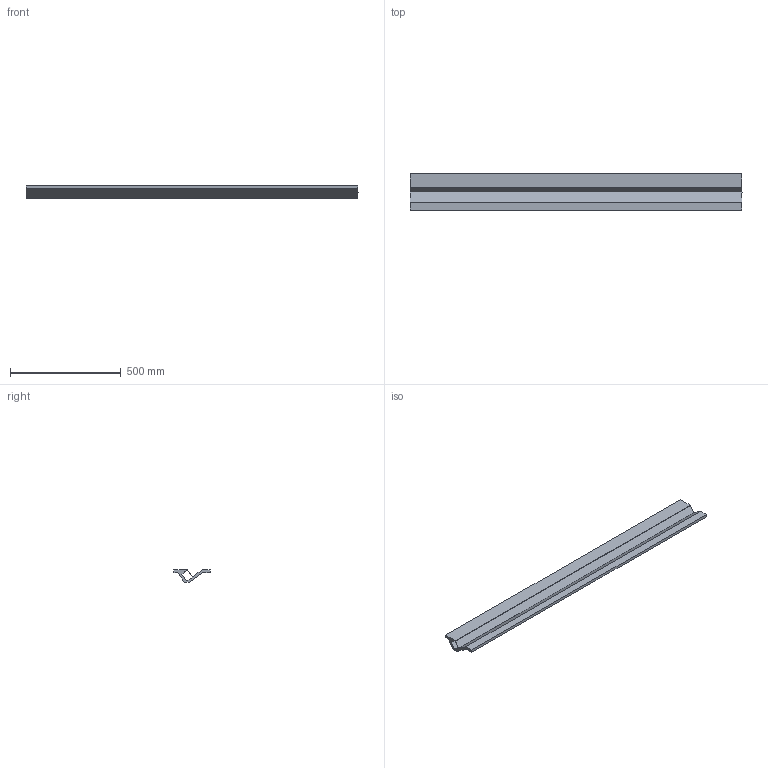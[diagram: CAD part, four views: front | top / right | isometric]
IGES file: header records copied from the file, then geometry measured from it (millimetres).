
Start section: SolidWorks IGES file using analytic representation for surfaces
Global section: file name: C:\Users\Stagiaire\Desktop\Rendu 3D\Micro BLADE\Micro BLADE 63\771_Micro_BLADE_63.IGS; native system: SolidWorks 2014; preprocessor: SolidWorks 2014; author: Stagiaire; date: 140915.111653; units: millimetre
Bounding box: 1500 x 165 x 56 mm (x, y, z)
Surface area: 960656 mm2 (no closed solid volume)
Topology: 0 solids, 0 shells, 30 faces, 170 edges, 170 vertices
Faces by surface type: bspline 29, revolution 1
